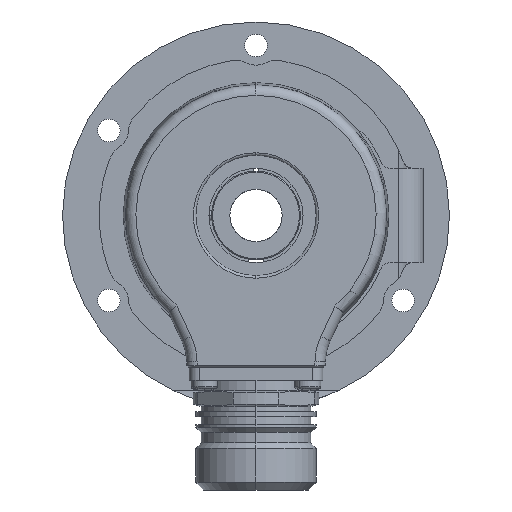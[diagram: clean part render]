
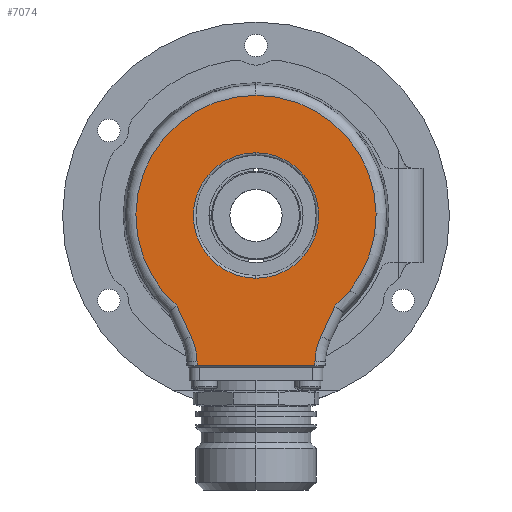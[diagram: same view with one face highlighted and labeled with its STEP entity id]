
A CAD part, left-side view. The second image highlights one B-rep face of the part: STEP entity #7074.
In plain terms, the highlighted planar face has unit normal (-1, 0, 0).
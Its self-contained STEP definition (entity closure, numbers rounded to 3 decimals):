
#6240 = VERTEX_POINT ( 'NONE', #18762 ) ;
#6261 = EDGE_CURVE ( 'NONE', #6262, #6240, #18886, .T. ) ;
#6262 = VERTEX_POINT ( 'NONE', #18882 ) ;
#6367 = VERTEX_POINT ( 'NONE', #19243 ) ;
#6368 = VERTEX_POINT ( 'NONE', #19242 ) ;
#6374 = EDGE_CURVE ( 'NONE', #6368, #6404, #19301, .T. ) ;
#6396 = EDGE_CURVE ( 'NONE', #6367, #6417, #19478, .T. ) ;
#6404 = VERTEX_POINT ( 'NONE', #19495 ) ;
#6417 = VERTEX_POINT ( 'NONE', #19531 ) ;
#6658 = EDGE_CURVE ( 'NONE', #6693, #6367, #19587, .T. ) ;
#6691 = EDGE_CURVE ( 'NONE', #6404, #6693, #19704, .T. ) ;
#6693 = VERTEX_POINT ( 'NONE', #19700 ) ;
#6823 = VERTEX_POINT ( 'NONE', #20121 ) ;
#6829 = EDGE_CURVE ( 'NONE', #6859, #6823, #20157, .T. ) ;
#6848 = EDGE_CURVE ( 'NONE', #6417, #6859, #20167, .T. ) ;
#6859 = VERTEX_POINT ( 'NONE', #20248 ) ;
#6877 = VERTEX_POINT ( 'NONE', #20346 ) ;
#6909 = VERTEX_POINT ( 'NONE', #20388 ) ;
#6911 = EDGE_CURVE ( 'NONE', #6877, #6909, #20387, .T. ) ;
#6982 = ORIENTED_EDGE ( 'NONE', *, *, #6396, .T. ) ;
#6984 = EDGE_CURVE ( 'NONE', #6823, #6877, #20694, .T. ) ;
#7014 = ORIENTED_EDGE ( 'NONE', *, *, #6691, .T. ) ;
#7045 = ORIENTED_EDGE ( 'NONE', *, *, #6374, .T. ) ;
#7046 = ORIENTED_EDGE ( 'NONE', *, *, #7047, .T. ) ;
#7047 = EDGE_CURVE ( 'NONE', #6909, #6368, #20963, .T. ) ;
#7056 = ORIENTED_EDGE ( 'NONE', *, *, #6848, .T. ) ;
#7057 = ORIENTED_EDGE ( 'NONE', *, *, #6829, .T. ) ;
#7059 = ORIENTED_EDGE ( 'NONE', *, *, #7075, .T. ) ;
#7060 = ORIENTED_EDGE ( 'NONE', *, *, #6261, .T. ) ;
#7061 = ORIENTED_EDGE ( 'NONE', *, *, #6984, .T. ) ;
#7062 = ORIENTED_EDGE ( 'NONE', *, *, #6911, .T. ) ;
#7066 = ORIENTED_EDGE ( 'NONE', *, *, #6658, .T. ) ;
#7071 = EDGE_LOOP ( 'NONE', ( #7060, #7059 ) ) ;
#7072 = EDGE_LOOP ( 'NONE', ( #7061, #7062, #7046, #7045, #7014, #7066, #6982, #7056, #7057 ) ) ;
#7074 = ADVANCED_FACE ( 'NONE', ( #21016, #21019 ), #21049, .F. ) ;
#7075 = EDGE_CURVE ( 'NONE', #6240, #6262, #21043, .T. ) ;
#18762 = CARTESIAN_POINT ( 'NONE',  ( -21., 0., -12. ) ) ;
#18882 = CARTESIAN_POINT ( 'NONE',  ( -21., 0., 12. ) ) ;
#18883 = DIRECTION ( 'NONE',  ( 0., 0., 1. ) ) ;
#18884 = DIRECTION ( 'NONE',  ( 1., 0., 0. ) ) ;
#18885 = AXIS2_PLACEMENT_3D ( 'NONE', #18892, #18884, #18883 ) ;
#18886 = CIRCLE ( 'NONE', #18885, 12. ) ;
#18892 = CARTESIAN_POINT ( 'NONE',  ( -21., 0., 0. ) ) ;
#19242 = CARTESIAN_POINT ( 'NONE',  ( -21., -11.268, -27.974 ) ) ;
#19243 = CARTESIAN_POINT ( 'NONE',  ( -21., 0., 22.972 ) ) ;
#19297 = DIRECTION ( 'NONE',  ( 0., 0., 1. ) ) ;
#19298 = DIRECTION ( 'NONE',  ( 1., 0., 0. ) ) ;
#19299 = CARTESIAN_POINT ( 'NONE',  ( -21., -23.266, -28.183 ) ) ;
#19300 = AXIS2_PLACEMENT_3D ( 'NONE', #19299, #19298, #19297 ) ;
#19301 = CIRCLE ( 'NONE', #19300, 12. ) ;
#19458 = DIRECTION ( 'NONE',  ( 0., 0., 1. ) ) ;
#19473 = DIRECTION ( 'NONE',  ( -1., 0., 0. ) ) ;
#19474 = CARTESIAN_POINT ( 'NONE',  ( -21., 0., 0. ) ) ;
#19475 = AXIS2_PLACEMENT_3D ( 'NONE', #19474, #19473, #19458 ) ;
#19478 = CIRCLE ( 'NONE', #19475, 22.972 ) ;
#19495 = CARTESIAN_POINT ( 'NONE',  ( -21., -12.39, -23.112 ) ) ;
#19531 = CARTESIAN_POINT ( 'NONE',  ( -21., 15.091, -17.32 ) ) ;
#19583 = DIRECTION ( 'NONE',  ( 0., 0., 1. ) ) ;
#19584 = DIRECTION ( 'NONE',  ( -1., 0., 0. ) ) ;
#19585 = CARTESIAN_POINT ( 'NONE',  ( -21., 0., 0. ) ) ;
#19586 = AXIS2_PLACEMENT_3D ( 'NONE', #19585, #19584, #19583 ) ;
#19587 = CIRCLE ( 'NONE', #19586, 22.972 ) ;
#19700 = CARTESIAN_POINT ( 'NONE',  ( -21., -15.091, -17.32 ) ) ;
#19701 = DIRECTION ( 'NONE',  ( 0., -0.423, 0.906 ) ) ;
#19702 = VECTOR ( 'NONE', #19701, 1000. ) ;
#19703 = CARTESIAN_POINT ( 'NONE',  ( -21., -14.953, -17.615 ) ) ;
#19704 = LINE ( 'NONE', #19703, #19702 ) ;
#20121 = CARTESIAN_POINT ( 'NONE',  ( -21., 11.268, -27.974 ) ) ;
#20149 = DIRECTION ( 'NONE',  ( 0., 0., 1. ) ) ;
#20150 = DIRECTION ( 'NONE',  ( 1., 0., 0. ) ) ;
#20151 = CARTESIAN_POINT ( 'NONE',  ( -21., 23.266, -28.183 ) ) ;
#20152 = AXIS2_PLACEMENT_3D ( 'NONE', #20151, #20150, #20149 ) ;
#20157 = CIRCLE ( 'NONE', #20152, 12. ) ;
#20164 = DIRECTION ( 'NONE',  ( 0., -0.423, -0.906 ) ) ;
#20165 = VECTOR ( 'NONE', #20164, 1000. ) ;
#20166 = CARTESIAN_POINT ( 'NONE',  ( -21., 12.39, -23.112 ) ) ;
#20167 = LINE ( 'NONE', #20166, #20165 ) ;
#20248 = CARTESIAN_POINT ( 'NONE',  ( -21., 12.39, -23.112 ) ) ;
#20346 = CARTESIAN_POINT ( 'NONE',  ( -21., 11.255, -28.695 ) ) ;
#20384 = DIRECTION ( 'NONE',  ( 0., -1., 0. ) ) ;
#20385 = VECTOR ( 'NONE', #20384, 1000. ) ;
#20386 = CARTESIAN_POINT ( 'NONE',  ( -21., -11.25, -28.695 ) ) ;
#20387 = LINE ( 'NONE', #20386, #20385 ) ;
#20388 = CARTESIAN_POINT ( 'NONE',  ( -21., -11.255, -28.695 ) ) ;
#20691 = DIRECTION ( 'NONE',  ( 0., -0.017, -1. ) ) ;
#20692 = VECTOR ( 'NONE', #20691, 1000. ) ;
#20693 = CARTESIAN_POINT ( 'NONE',  ( -21., 11.752, -0.205 ) ) ;
#20694 = LINE ( 'NONE', #20693, #20692 ) ;
#20960 = DIRECTION ( 'NONE',  ( 0., -0.017, 1. ) ) ;
#20961 = VECTOR ( 'NONE', #20960, 1000. ) ;
#20962 = CARTESIAN_POINT ( 'NONE',  ( -21., -11.752, -0.205 ) ) ;
#20963 = LINE ( 'NONE', #20962, #20961 ) ;
#21016 = FACE_BOUND ( 'NONE', #7071, .T. ) ;
#21019 = FACE_OUTER_BOUND ( 'NONE', #7072, .T. ) ;
#21040 = DIRECTION ( 'NONE',  ( 0., 0., 1. ) ) ;
#21041 = DIRECTION ( 'NONE',  ( 1., 0., 0. ) ) ;
#21042 = AXIS2_PLACEMENT_3D ( 'NONE', #21047, #21041, #21040 ) ;
#21043 = CIRCLE ( 'NONE', #21042, 12. ) ;
#21044 = DIRECTION ( 'NONE',  ( 0., 0., 1. ) ) ;
#21045 = DIRECTION ( 'NONE',  ( 1., 0., 0. ) ) ;
#21046 = CARTESIAN_POINT ( 'NONE',  ( -21., 0., 0. ) ) ;
#21047 = CARTESIAN_POINT ( 'NONE',  ( -21., 0., 0. ) ) ;
#21048 = AXIS2_PLACEMENT_3D ( 'NONE', #21046, #21045, #21044 ) ;
#21049 = PLANE ( 'NONE',  #21048 ) ;
